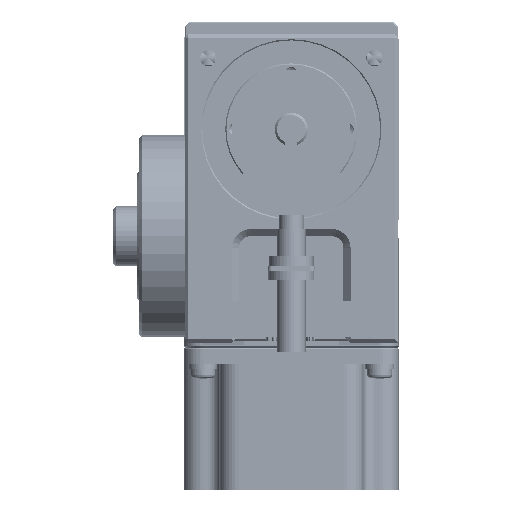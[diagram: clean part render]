
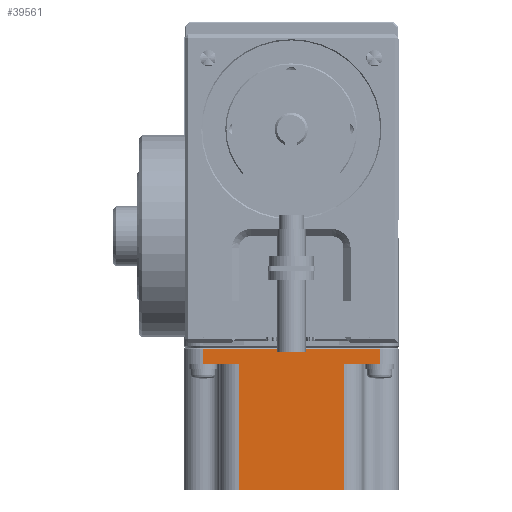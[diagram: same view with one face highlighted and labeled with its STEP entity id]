
A CAD part, left-side view. The second image highlights one B-rep face of the part: STEP entity #39561.
In plain terms, the highlighted planar face has unit normal (-1, 0, 0).
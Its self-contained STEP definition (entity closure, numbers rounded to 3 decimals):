
#4897 = CARTESIAN_POINT ( 'NONE',  ( 75.75, 22.75, -107. ) ) ;
#5124 = ORIENTED_EDGE ( 'NONE', *, *, #132139, .F. ) ;
#5971 = DIRECTION ( 'NONE',  ( 0., -1., 0. ) ) ;
#7328 = DIRECTION ( 'NONE',  ( 0., 0., 1. ) ) ;
#9683 = DIRECTION ( 'NONE',  ( 1., 0., 0. ) ) ;
#13562 = ORIENTED_EDGE ( 'NONE', *, *, #217887, .F. ) ;
#20768 = EDGE_CURVE ( 'NONE', #26197, #217578, #92773, .T. ) ;
#22947 = CARTESIAN_POINT ( 'NONE',  ( 75.75, 82.25, -54. ) ) ;
#23172 = VECTOR ( 'NONE', #7328, 1000. ) ;
#24768 = CARTESIAN_POINT ( 'NONE',  ( 75.75, 7.75, -47.5 ) ) ;
#26197 = VERTEX_POINT ( 'NONE', #24768 ) ;
#34711 = CARTESIAN_POINT ( 'NONE',  ( 75.75, 67.25, -107. ) ) ;
#39561 = ADVANCED_FACE ( 'NONE', ( #99368 ), #198419, .F. ) ;
#44095 = CARTESIAN_POINT ( 'NONE',  ( 75.75, 22.75, -107. ) ) ;
#44311 = DIRECTION ( 'NONE',  ( 0., 1., 0. ) ) ;
#47902 = VERTEX_POINT ( 'NONE', #34711 ) ;
#50210 = ORIENTED_EDGE ( 'NONE', *, *, #80413, .T. ) ;
#53384 = LINE ( 'NONE', #65914, #206416 ) ;
#53454 = CARTESIAN_POINT ( 'NONE',  ( 75.75, 7.75, -54. ) ) ;
#56658 = CARTESIAN_POINT ( 'NONE',  ( 75.75, 67.25, -54. ) ) ;
#65914 = CARTESIAN_POINT ( 'NONE',  ( 75.75, 82.25, -54. ) ) ;
#72788 = CARTESIAN_POINT ( 'NONE',  ( 75.75, 67.25, -107. ) ) ;
#73602 = LINE ( 'NONE', #22947, #175604 ) ;
#80413 = EDGE_CURVE ( 'NONE', #210442, #129589, #205804, .T. ) ;
#85168 = DIRECTION ( 'NONE',  ( 0., 0., 1. ) ) ;
#86330 = LINE ( 'NONE', #72788, #233347 ) ;
#92066 = DIRECTION ( 'NONE',  ( 0., 0., 1. ) ) ;
#92773 = LINE ( 'NONE', #53454, #194719 ) ;
#96579 = ORIENTED_EDGE ( 'NONE', *, *, #189577, .F. ) ;
#97940 = AXIS2_PLACEMENT_3D ( 'NONE', #239492, #9683, #143827 ) ;
#99368 = FACE_OUTER_BOUND ( 'NONE', #133352, .T. ) ;
#102315 = ORIENTED_EDGE ( 'NONE', *, *, #144773, .F. ) ;
#108086 = VECTOR ( 'NONE', #44311, 1000. ) ;
#108609 = CARTESIAN_POINT ( 'NONE',  ( 75.75, 82.25, -54. ) ) ;
#114697 = EDGE_CURVE ( 'NONE', #230153, #217578, #73602, .T. ) ;
#117623 = CARTESIAN_POINT ( 'NONE',  ( 75.75, 82.25, -54. ) ) ;
#119193 = LINE ( 'NONE', #141444, #23172 ) ;
#119677 = CARTESIAN_POINT ( 'NONE',  ( 75.75, 82.25, -47.5 ) ) ;
#129359 = CARTESIAN_POINT ( 'NONE',  ( 75.75, 22.75, -54. ) ) ;
#129589 = VERTEX_POINT ( 'NONE', #56658 ) ;
#132139 = EDGE_CURVE ( 'NONE', #142576, #26197, #236844, .T. ) ;
#133346 = EDGE_CURVE ( 'NONE', #139463, #230153, #119193, .T. ) ;
#133352 = EDGE_LOOP ( 'NONE', ( #96579, #50210, #102315, #13562, #196937, #146220, #178155, #5124 ) ) ;
#134780 = VECTOR ( 'NONE', #5971, 1000. ) ;
#139463 = VERTEX_POINT ( 'NONE', #44095 ) ;
#141444 = CARTESIAN_POINT ( 'NONE',  ( 75.75, 22.75, -107. ) ) ;
#142576 = VERTEX_POINT ( 'NONE', #119677 ) ;
#143827 = DIRECTION ( 'NONE',  ( 0., 1., 0. ) ) ;
#144773 = EDGE_CURVE ( 'NONE', #47902, #129589, #86330, .T. ) ;
#146220 = ORIENTED_EDGE ( 'NONE', *, *, #114697, .T. ) ;
#154753 = VECTOR ( 'NONE', #166367, 1000. ) ;
#157046 = DIRECTION ( 'NONE',  ( 0., -1., 0. ) ) ;
#159013 = LINE ( 'NONE', #4897, #108086 ) ;
#160232 = CARTESIAN_POINT ( 'NONE',  ( 75.75, 82.25, -47.5 ) ) ;
#162245 = CARTESIAN_POINT ( 'NONE',  ( 75.75, 7.75, -54. ) ) ;
#166367 = DIRECTION ( 'NONE',  ( 0., -1., 0. ) ) ;
#175604 = VECTOR ( 'NONE', #157046, 1000. ) ;
#178155 = ORIENTED_EDGE ( 'NONE', *, *, #20768, .F. ) ;
#189577 = EDGE_CURVE ( 'NONE', #210442, #142576, #53384, .T. ) ;
#194719 = VECTOR ( 'NONE', #206067, 1000. ) ;
#196937 = ORIENTED_EDGE ( 'NONE', *, *, #133346, .T. ) ;
#198419 = PLANE ( 'NONE',  #97940 ) ;
#205804 = LINE ( 'NONE', #108609, #154753 ) ;
#206067 = DIRECTION ( 'NONE',  ( 0., 0., -1. ) ) ;
#206416 = VECTOR ( 'NONE', #85168, 1000. ) ;
#210442 = VERTEX_POINT ( 'NONE', #117623 ) ;
#217578 = VERTEX_POINT ( 'NONE', #162245 ) ;
#217887 = EDGE_CURVE ( 'NONE', #139463, #47902, #159013, .T. ) ;
#230153 = VERTEX_POINT ( 'NONE', #129359 ) ;
#233347 = VECTOR ( 'NONE', #92066, 1000. ) ;
#236844 = LINE ( 'NONE', #160232, #134780 ) ;
#239492 = CARTESIAN_POINT ( 'NONE',  ( 75.75, 82.25, -54. ) ) ;
